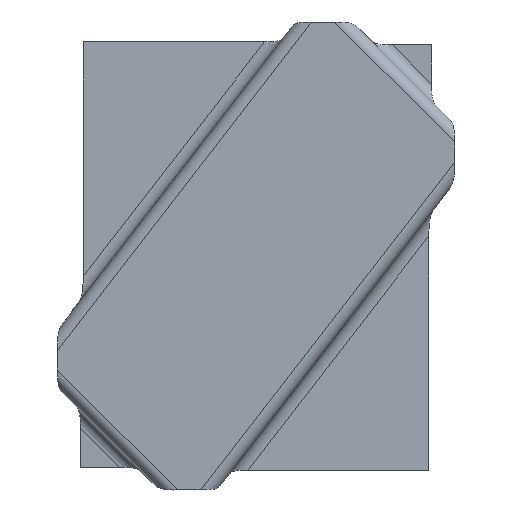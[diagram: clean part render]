
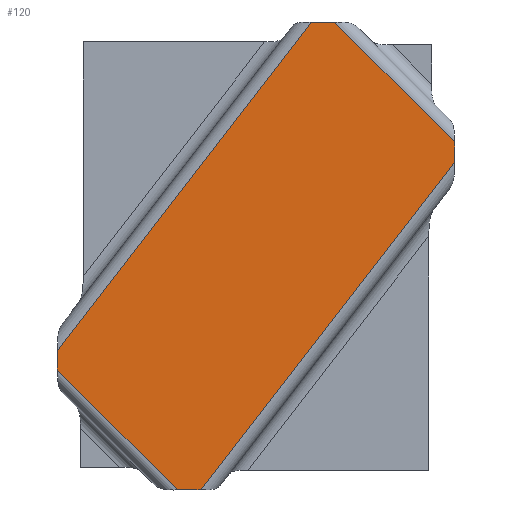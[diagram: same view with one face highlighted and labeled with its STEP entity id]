
A CAD part, top view. The second image highlights one B-rep face of the part: STEP entity #120.
In plain terms, the highlighted planar face has unit normal (0, 0, -1).
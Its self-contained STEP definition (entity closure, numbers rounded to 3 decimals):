
#53=CARTESIAN_POINT('Axis2P3D Location',(-51.221,39.603,65.246)) ;
#59=CARTESIAN_POINT('Control Point',(-51.221,79.006,65.246)) ;
#60=CARTESIAN_POINT('Control Point',(20.372,171.603,65.246)) ;
#61=CARTESIAN_POINT('Vertex',(-51.221,79.006,65.246)) ;
#63=CARTESIAN_POINT('Vertex',(20.372,171.603,65.246)) ;
#66=CARTESIAN_POINT('Line Origine',(4.779,171.603,65.246)) ;
#70=CARTESIAN_POINT('Vertex',(26.953,171.603,65.246)) ;
#74=CARTESIAN_POINT('Control Point',(26.953,171.603,65.246)) ;
#75=CARTESIAN_POINT('Control Point',(60.779,137.777,65.246)) ;
#76=CARTESIAN_POINT('Vertex',(60.779,137.777,65.246)) ;
#79=CARTESIAN_POINT('Line Origine',(60.779,105.603,65.246)) ;
#83=CARTESIAN_POINT('Vertex',(60.779,132.055,65.246)) ;
#87=CARTESIAN_POINT('Control Point',(60.779,132.055,65.246)) ;
#88=CARTESIAN_POINT('Control Point',(-10.703,39.603,65.246)) ;
#89=CARTESIAN_POINT('Vertex',(-10.703,39.603,65.246)) ;
#92=CARTESIAN_POINT('Line Origine',(4.779,39.603,65.246)) ;
#96=CARTESIAN_POINT('Vertex',(-17.395,39.603,65.246)) ;
#100=CARTESIAN_POINT('Control Point',(-51.221,73.429,65.246)) ;
#101=CARTESIAN_POINT('Control Point',(-17.395,39.603,65.246)) ;
#102=CARTESIAN_POINT('Vertex',(-51.221,73.429,65.246)) ;
#105=CARTESIAN_POINT('Line Origine',(-51.221,105.603,65.246)) ;
#54=DIRECTION('Axis2P3D Direction',(0.,0.,1.)) ;
#55=DIRECTION('Axis2P3D XDirection',(1.,0.,0.)) ;
#67=DIRECTION('Vector Direction',(1.,0.,0.)) ;
#80=DIRECTION('Vector Direction',(0.,1.,0.)) ;
#93=DIRECTION('Vector Direction',(1.,0.,0.)) ;
#106=DIRECTION('Vector Direction',(0.,1.,0.)) ;
#56=AXIS2_PLACEMENT_3D('Plane Axis2P3D',#53,#54,#55) ;
#111=ORIENTED_EDGE('',*,*,#65,.T.) ;
#112=ORIENTED_EDGE('',*,*,#72,.T.) ;
#113=ORIENTED_EDGE('',*,*,#78,.T.) ;
#114=ORIENTED_EDGE('',*,*,#85,.T.) ;
#115=ORIENTED_EDGE('',*,*,#91,.T.) ;
#116=ORIENTED_EDGE('',*,*,#98,.T.) ;
#117=ORIENTED_EDGE('',*,*,#104,.F.) ;
#118=ORIENTED_EDGE('',*,*,#109,.T.) ;
#68=VECTOR('Line Direction',#67,1.) ;
#81=VECTOR('Line Direction',#80,1.) ;
#94=VECTOR('Line Direction',#93,1.) ;
#107=VECTOR('Line Direction',#106,1.) ;
#120=ADVANCED_FACE('Offset.1',(#119),#57,.F.) ;
#58=B_SPLINE_CURVE_WITH_KNOTS('',1,(#59,#60),.UNSPECIFIED.,.F.,.U.,(2,2),(-58.523,58.523),.UNSPECIFIED.) ;
#73=B_SPLINE_CURVE_WITH_KNOTS('',1,(#74,#75),.UNSPECIFIED.,.F.,.U.,(2,2),(-23.919,23.919),.UNSPECIFIED.) ;
#86=B_SPLINE_CURVE_WITH_KNOTS('',1,(#87,#88),.UNSPECIFIED.,.F.,.U.,(2,2),(-58.431,58.431),.UNSPECIFIED.) ;
#99=B_SPLINE_CURVE_WITH_KNOTS('',1,(#100,#101),.UNSPECIFIED.,.F.,.U.,(2,2),(-23.919,23.919),.UNSPECIFIED.) ;
#65=EDGE_CURVE('',#62,#64,#58,.T.) ;
#72=EDGE_CURVE('',#64,#71,#69,.T.) ;
#78=EDGE_CURVE('',#71,#77,#73,.T.) ;
#85=EDGE_CURVE('',#77,#84,#82,.F.) ;
#91=EDGE_CURVE('',#84,#90,#86,.T.) ;
#98=EDGE_CURVE('',#90,#97,#95,.F.) ;
#104=EDGE_CURVE('',#103,#97,#99,.T.) ;
#109=EDGE_CURVE('',#103,#62,#108,.T.) ;
#110=EDGE_LOOP('',(#111,#112,#113,#114,#115,#116,#117,#118)) ;
#119=FACE_OUTER_BOUND('',#110,.T.) ;
#69=LINE('Line',#66,#68) ;
#82=LINE('Line',#79,#81) ;
#95=LINE('Line',#92,#94) ;
#108=LINE('Line',#105,#107) ;
#57=PLANE('',#56) ;
#62=VERTEX_POINT('',#61) ;
#64=VERTEX_POINT('',#63) ;
#71=VERTEX_POINT('',#70) ;
#77=VERTEX_POINT('',#76) ;
#84=VERTEX_POINT('',#83) ;
#90=VERTEX_POINT('',#89) ;
#97=VERTEX_POINT('',#96) ;
#103=VERTEX_POINT('',#102) ;
